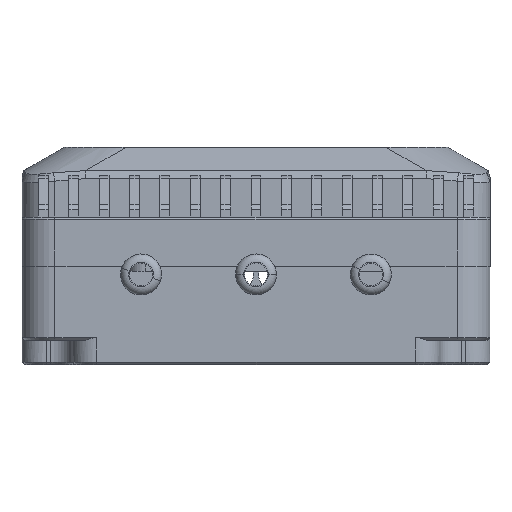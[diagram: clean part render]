
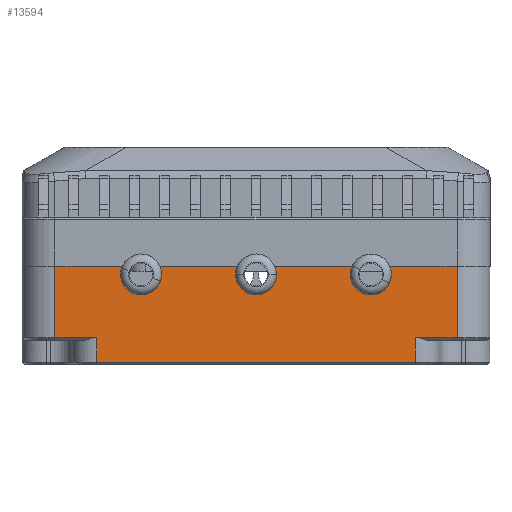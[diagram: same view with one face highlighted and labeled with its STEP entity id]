
A CAD part, front view. The second image highlights one B-rep face of the part: STEP entity #13594.
In plain terms, the highlighted planar face has unit normal (0, -1, 0).
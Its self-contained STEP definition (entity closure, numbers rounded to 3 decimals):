
#85 = LINE ( 'NONE', #14636, #19625 ) ;
#738 = LINE ( 'NONE', #15646, #37628 ) ;
#853 = DIRECTION ( 'NONE',  ( 0., 1., 0. ) ) ;
#885 = CARTESIAN_POINT ( 'NONE',  ( -19.4, -57.5, 0.3 ) ) ;
#1068 = CARTESIAN_POINT ( 'NONE',  ( 14., -57.5, 9. ) ) ;
#1297 = DIRECTION ( 'NONE',  ( 0., 0., 1. ) ) ;
#1316 = AXIS2_PLACEMENT_3D ( 'NONE', #8429, #23332, #3059 ) ;
#1487 = LINE ( 'NONE', #27153, #12435 ) ;
#1897 = AXIS2_PLACEMENT_3D ( 'NONE', #7153, #853, #24763 ) ;
#1922 = LINE ( 'NONE', #13980, #4939 ) ;
#2110 = EDGE_CURVE ( 'NONE', #36172, #15213, #10444, .T. ) ;
#2222 = CARTESIAN_POINT ( 'NONE',  ( -28.5, -57.5, 12. ) ) ;
#2466 = DIRECTION ( 'NONE',  ( 1., 0., 0. ) ) ;
#2587 = VERTEX_POINT ( 'NONE', #22222 ) ;
#2677 = CIRCLE ( 'NONE', #28373, 2. ) ;
#2694 = CARTESIAN_POINT ( 'NONE',  ( 24.5, -57.5, 3.3 ) ) ;
#2860 = CARTESIAN_POINT ( 'NONE',  ( 15.732, -57.5, 12. ) ) ;
#2872 = FACE_OUTER_BOUND ( 'NONE', #32242, .T. ) ;
#3059 = DIRECTION ( 'NONE',  ( 0., 0., 1. ) ) ;
#3567 = ORIENTED_EDGE ( 'NONE', *, *, #17743, .T. ) ;
#4190 = CARTESIAN_POINT ( 'NONE',  ( 19.4, -57.5, 12. ) ) ;
#4246 = CARTESIAN_POINT ( 'NONE',  ( -15.732, -57.5, 12. ) ) ;
#4358 = DIRECTION ( 'NONE',  ( 0., 1., 0. ) ) ;
#4405 = CARTESIAN_POINT ( 'NONE',  ( -19.4, -57.5, 3.3 ) ) ;
#4903 = ORIENTED_EDGE ( 'NONE', *, *, #12095, .T. ) ;
#4916 = ORIENTED_EDGE ( 'NONE', *, *, #30824, .T. ) ;
#4939 = VECTOR ( 'NONE', #19520, 1000. ) ;
#5099 = DIRECTION ( 'NONE',  ( 0., -1., 0. ) ) ;
#5487 = DIRECTION ( 'NONE',  ( 1., 0., 0. ) ) ;
#5697 = VERTEX_POINT ( 'NONE', #1068 ) ;
#6010 = DIRECTION ( 'NONE',  ( 0., 0., -1. ) ) ;
#6441 = AXIS2_PLACEMENT_3D ( 'NONE', #8530, #5099, #28476 ) ;
#6572 = CARTESIAN_POINT ( 'NONE',  ( 12.268, -57.5, 12. ) ) ;
#6646 = CARTESIAN_POINT ( 'NONE',  ( 0., -57.5, 9. ) ) ;
#6806 = CARTESIAN_POINT ( 'NONE',  ( 0., -57.5, 11. ) ) ;
#6901 = VECTOR ( 'NONE', #2466, 1000. ) ;
#6930 = CARTESIAN_POINT ( 'NONE',  ( -1.732, -57.5, 12. ) ) ;
#7153 = CARTESIAN_POINT ( 'NONE',  ( 0., -57.5, 11. ) ) ;
#7444 = LINE ( 'NONE', #4190, #35019 ) ;
#8143 = DIRECTION ( 'NONE',  ( 1., 0., 0. ) ) ;
#8429 = CARTESIAN_POINT ( 'NONE',  ( -14., -57.5, 11. ) ) ;
#8530 = CARTESIAN_POINT ( 'NONE',  ( -14., -57.5, 11. ) ) ;
#8976 = VERTEX_POINT ( 'NONE', #22318 ) ;
#9253 = EDGE_CURVE ( 'NONE', #13228, #26132, #26945, .T. ) ;
#9736 = EDGE_CURVE ( 'NONE', #24541, #25478, #7444, .T. ) ;
#10093 = ORIENTED_EDGE ( 'NONE', *, *, #16367, .T. ) ;
#10246 = CARTESIAN_POINT ( 'NONE',  ( -19.4, -57.5, 12. ) ) ;
#10267 = EDGE_CURVE ( 'NONE', #13228, #21155, #22328, .T. ) ;
#10444 = LINE ( 'NONE', #10246, #11413 ) ;
#11020 = LINE ( 'NONE', #2222, #32518 ) ;
#11254 = CIRCLE ( 'NONE', #21009, 2. ) ;
#11413 = VECTOR ( 'NONE', #27887, 1000. ) ;
#11950 = DIRECTION ( 'NONE',  ( 1., 0., 0. ) ) ;
#12095 = EDGE_CURVE ( 'NONE', #5697, #21155, #11254, .T. ) ;
#12408 = DIRECTION ( 'NONE',  ( 1., 0., 0. ) ) ;
#12435 = VECTOR ( 'NONE', #1297, 1000. ) ;
#12561 = EDGE_CURVE ( 'NONE', #20141, #18942, #1487, .T. ) ;
#13153 = DIRECTION ( 'NONE',  ( 1., 0., 0. ) ) ;
#13228 = VERTEX_POINT ( 'NONE', #32587 ) ;
#13381 = DIRECTION ( 'NONE',  ( 0., 0., 1. ) ) ;
#13540 = LINE ( 'NONE', #18890, #37223 ) ;
#13594 = ADVANCED_FACE ( 'NONE', ( #2872 ), #26223, .F. ) ;
#13980 = CARTESIAN_POINT ( 'NONE',  ( 24.5, -57.5, 3.3 ) ) ;
#14290 = CARTESIAN_POINT ( 'NONE',  ( -28.5, -57.5, 12. ) ) ;
#14636 = CARTESIAN_POINT ( 'NONE',  ( -28.5, -57.5, 12. ) ) ;
#15213 = VERTEX_POINT ( 'NONE', #885 ) ;
#15557 = CARTESIAN_POINT ( 'NONE',  ( 14., -57.5, 11. ) ) ;
#15599 = ORIENTED_EDGE ( 'NONE', *, *, #17662, .F. ) ;
#15610 = DIRECTION ( 'NONE',  ( 0., 0., 1. ) ) ;
#15646 = CARTESIAN_POINT ( 'NONE',  ( -28.5, -57.5, 12. ) ) ;
#15808 = EDGE_CURVE ( 'NONE', #20001, #36587, #20549, .T. ) ;
#16367 = EDGE_CURVE ( 'NONE', #25478, #20141, #1922, .T. ) ;
#16905 = EDGE_CURVE ( 'NONE', #30497, #18942, #85, .T. ) ;
#17237 = CARTESIAN_POINT ( 'NONE',  ( 14., -57.5, 11. ) ) ;
#17464 = CIRCLE ( 'NONE', #6441, 2. ) ;
#17662 = EDGE_CURVE ( 'NONE', #34928, #8976, #33135, .T. ) ;
#17743 = EDGE_CURVE ( 'NONE', #30497, #5697, #24556, .T. ) ;
#17979 = EDGE_CURVE ( 'NONE', #2587, #35947, #11020, .T. ) ;
#18598 = CARTESIAN_POINT ( 'NONE',  ( 19.4, -57.5, 3.3 ) ) ;
#18890 = CARTESIAN_POINT ( 'NONE',  ( -19.4, -57.5, 3.3 ) ) ;
#18942 = VERTEX_POINT ( 'NONE', #34681 ) ;
#19520 = DIRECTION ( 'NONE',  ( 1., 0., 0. ) ) ;
#19625 = VECTOR ( 'NONE', #11950, 1000. ) ;
#20001 = VERTEX_POINT ( 'NONE', #22726 ) ;
#20082 = CARTESIAN_POINT ( 'NONE',  ( -28.5, -57.5, 12. ) ) ;
#20141 = VERTEX_POINT ( 'NONE', #2694 ) ;
#20549 = LINE ( 'NONE', #32256, #31819 ) ;
#20591 = EDGE_CURVE ( 'NONE', #15213, #24541, #22164, .T. ) ;
#20628 = AXIS2_PLACEMENT_3D ( 'NONE', #20082, #31229, #25851 ) ;
#20891 = EDGE_CURVE ( 'NONE', #26132, #35947, #2677, .T. ) ;
#21009 = AXIS2_PLACEMENT_3D ( 'NONE', #15557, #35863, #27821 ) ;
#21155 = VERTEX_POINT ( 'NONE', #6572 ) ;
#21472 = ORIENTED_EDGE ( 'NONE', *, *, #10267, .F. ) ;
#22164 = LINE ( 'NONE', #34448, #6901 ) ;
#22222 = CARTESIAN_POINT ( 'NONE',  ( -12.268, -57.5, 12. ) ) ;
#22318 = CARTESIAN_POINT ( 'NONE',  ( -14., -57.5, 9. ) ) ;
#22328 = LINE ( 'NONE', #14290, #22812 ) ;
#22419 = CARTESIAN_POINT ( 'NONE',  ( 19.4, -57.5, 0.3 ) ) ;
#22726 = CARTESIAN_POINT ( 'NONE',  ( -24.5, -57.5, 12. ) ) ;
#22812 = VECTOR ( 'NONE', #5487, 1000. ) ;
#23332 = DIRECTION ( 'NONE',  ( 0., -1., 0. ) ) ;
#23442 = EDGE_CURVE ( 'NONE', #8976, #2587, #17464, .T. ) ;
#24443 = CARTESIAN_POINT ( 'NONE',  ( -24.5, -57.5, 3.3 ) ) ;
#24541 = VERTEX_POINT ( 'NONE', #22419 ) ;
#24556 = CIRCLE ( 'NONE', #31924, 2. ) ;
#24763 = DIRECTION ( 'NONE',  ( 0., 0., 1. ) ) ;
#25005 = ORIENTED_EDGE ( 'NONE', *, *, #15808, .T. ) ;
#25478 = VERTEX_POINT ( 'NONE', #18598 ) ;
#25851 = DIRECTION ( 'NONE',  ( 0., 0., 1. ) ) ;
#26132 = VERTEX_POINT ( 'NONE', #6646 ) ;
#26223 = PLANE ( 'NONE',  #20628 ) ;
#26303 = ORIENTED_EDGE ( 'NONE', *, *, #23442, .F. ) ;
#26945 = CIRCLE ( 'NONE', #1897, 2. ) ;
#27095 = ORIENTED_EDGE ( 'NONE', *, *, #20891, .T. ) ;
#27153 = CARTESIAN_POINT ( 'NONE',  ( 24.5, -57.5, 12. ) ) ;
#27213 = EDGE_CURVE ( 'NONE', #20001, #34928, #738, .T. ) ;
#27821 = DIRECTION ( 'NONE',  ( 0., 0., 1. ) ) ;
#27887 = DIRECTION ( 'NONE',  ( 0., 0., -1. ) ) ;
#27951 = ORIENTED_EDGE ( 'NONE', *, *, #20591, .T. ) ;
#28373 = AXIS2_PLACEMENT_3D ( 'NONE', #6806, #30185, #15610 ) ;
#28476 = DIRECTION ( 'NONE',  ( 0., 0., 1. ) ) ;
#28931 = DIRECTION ( 'NONE',  ( 0., 0., 1. ) ) ;
#29257 = ORIENTED_EDGE ( 'NONE', *, *, #9253, .T. ) ;
#30185 = DIRECTION ( 'NONE',  ( 0., 1., 0. ) ) ;
#30497 = VERTEX_POINT ( 'NONE', #2860 ) ;
#30824 = EDGE_CURVE ( 'NONE', #36587, #36172, #13540, .T. ) ;
#31229 = DIRECTION ( 'NONE',  ( 0., 1., 0. ) ) ;
#31819 = VECTOR ( 'NONE', #6010, 1000. ) ;
#31924 = AXIS2_PLACEMENT_3D ( 'NONE', #17237, #4358, #28931 ) ;
#32023 = ORIENTED_EDGE ( 'NONE', *, *, #27213, .F. ) ;
#32242 = EDGE_LOOP ( 'NONE', ( #34385, #10093, #33620, #33212, #3567, #4903, #21472, #29257, #27095, #35387, #26303, #15599, #32023, #25005, #4916, #33574, #27951 ) ) ;
#32256 = CARTESIAN_POINT ( 'NONE',  ( -24.5, -57.5, 12. ) ) ;
#32518 = VECTOR ( 'NONE', #8143, 1000. ) ;
#32587 = CARTESIAN_POINT ( 'NONE',  ( 1.732, -57.5, 12. ) ) ;
#33135 = CIRCLE ( 'NONE', #1316, 2. ) ;
#33212 = ORIENTED_EDGE ( 'NONE', *, *, #16905, .F. ) ;
#33574 = ORIENTED_EDGE ( 'NONE', *, *, #2110, .T. ) ;
#33620 = ORIENTED_EDGE ( 'NONE', *, *, #12561, .T. ) ;
#34385 = ORIENTED_EDGE ( 'NONE', *, *, #9736, .T. ) ;
#34448 = CARTESIAN_POINT ( 'NONE',  ( -28.5, -57.5, 0.3 ) ) ;
#34681 = CARTESIAN_POINT ( 'NONE',  ( 24.5, -57.5, 12. ) ) ;
#34928 = VERTEX_POINT ( 'NONE', #4246 ) ;
#35019 = VECTOR ( 'NONE', #13381, 1000. ) ;
#35387 = ORIENTED_EDGE ( 'NONE', *, *, #17979, .F. ) ;
#35863 = DIRECTION ( 'NONE',  ( 0., 1., 0. ) ) ;
#35947 = VERTEX_POINT ( 'NONE', #6930 ) ;
#36172 = VERTEX_POINT ( 'NONE', #4405 ) ;
#36587 = VERTEX_POINT ( 'NONE', #24443 ) ;
#37223 = VECTOR ( 'NONE', #13153, 1000. ) ;
#37628 = VECTOR ( 'NONE', #12408, 1000. ) ;
